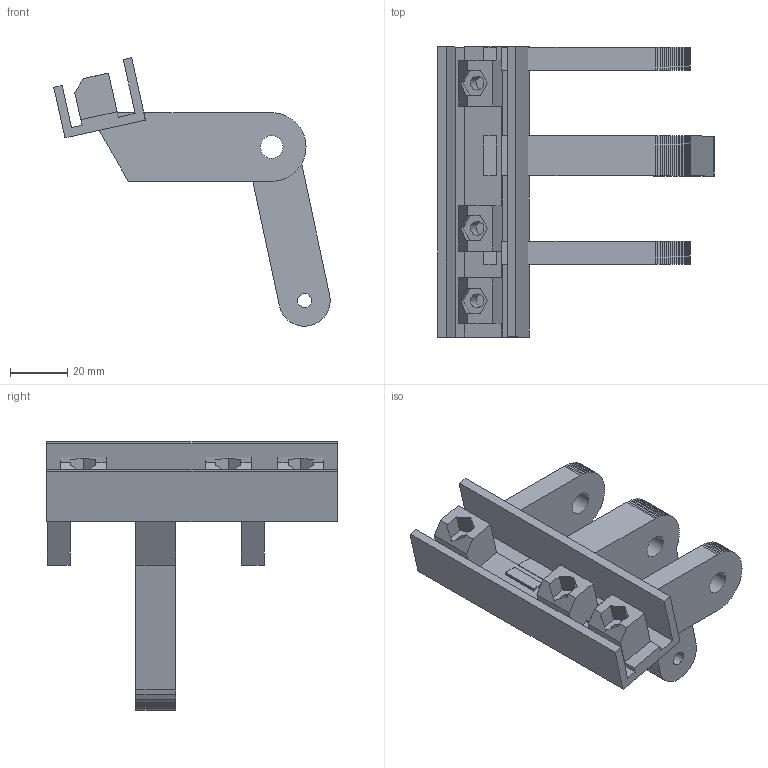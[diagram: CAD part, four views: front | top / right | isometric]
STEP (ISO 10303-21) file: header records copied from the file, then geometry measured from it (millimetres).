
FILE_DESCRIPTION(('Open CASCADE Model'),'2;1');
FILE_NAME('Open CASCADE Shape Model','2026-10-16T05:05:18',('Author'),( 'Open CASCADE'),'Open CASCADE STEP processor 7.9','Open CASCADE 7.9' ,'Unknown');
FILE_SCHEMA(('AUTOMOTIVE_DESIGN { 1 0 10303 214 1 1 1 1 }'));
Length unit declared in the file: millimetre
Products named in the file (1): Open CASCADE STEP translator 7.9 1
Bounding box: 96.82 x 101.6 x 94.05 mm (x, y, z)
Volume: 85174.6 mm3; surface area: 34535.8 mm2
Topology: 1 solids, 1 shells, 246 faces, 720 edges, 480 vertices
Faces by surface type: plane 239, cylinder 7
Full cylindrical faces by diameter (mm): 4.8 x3, 4.9 x1, 8 x3
Entity records: 17224 total; most frequent: CARTESIAN_POINT 3173, DIRECTION 2452, LINE 1930, VECTOR 1930, ORIENTED_EDGE 1440, PCURVE 1440, DEFINITIONAL_REPRESENTATION 1440, EDGE_CURVE 720
